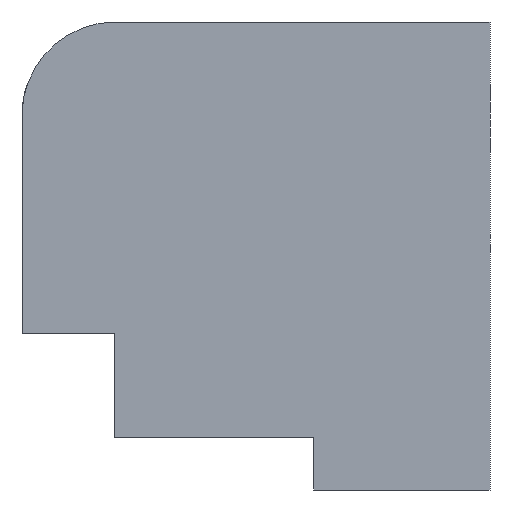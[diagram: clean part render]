
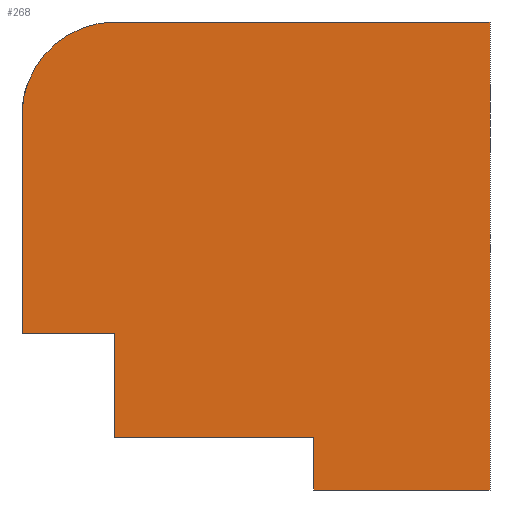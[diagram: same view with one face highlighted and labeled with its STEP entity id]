
A CAD part, front view. The second image highlights one B-rep face of the part: STEP entity #268.
In plain terms, the highlighted planar face has unit normal (0, -1, 0).
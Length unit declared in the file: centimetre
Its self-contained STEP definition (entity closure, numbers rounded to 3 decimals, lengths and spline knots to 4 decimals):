
#15 = EDGE_CURVE ( 'NONE', #642, #235, #370, .T. ) ;
#17 = EDGE_LOOP ( 'NONE', ( #24, #442, #120, #632, #596, #78, #430, #422, #227 ) ) ;
#24 = ORIENTED_EDGE ( 'NONE', *, *, #392, .T. ) ;
#35 = EDGE_CURVE ( 'NONE', #337, #346, #108, .T. ) ;
#53 = VECTOR ( 'NONE', #95, 100. ) ;
#62 = VERTEX_POINT ( 'NONE', #192 ) ;
#78 = ORIENTED_EDGE ( 'NONE', *, *, #385, .T. ) ;
#91 = FACE_OUTER_BOUND ( 'NONE', #17, .T. ) ;
#93 = LINE ( 'NONE', #396, #585 ) ;
#95 = DIRECTION ( 'NONE',  ( -1., 0., 0. ) ) ;
#100 = CARTESIAN_POINT ( 'NONE',  ( 1000., 0., 1000. ) ) ;
#108 = LINE ( 'NONE', #376, #215 ) ;
#111 = DIRECTION ( 'NONE',  ( 0., 0., 1. ) ) ;
#113 = DIRECTION ( 'NONE',  ( 1., 0., 0. ) ) ;
#114 = EDGE_CURVE ( 'NONE', #633, #178, #93, .T. ) ;
#118 = CARTESIAN_POINT ( 'NONE',  ( 623.1372, 0., 0. ) ) ;
#120 = ORIENTED_EDGE ( 'NONE', *, *, #15, .F. ) ;
#125 = VECTOR ( 'NONE', #154, 100. ) ;
#145 = DIRECTION ( 'NONE',  ( 1., 0., 0. ) ) ;
#150 = LINE ( 'NONE', #367, #612 ) ;
#154 = DIRECTION ( 'NONE',  ( 0., 0., -1. ) ) ;
#168 = DIRECTION ( 'NONE',  ( 0., 0., 1. ) ) ;
#178 = VERTEX_POINT ( 'NONE', #211 ) ;
#183 = CARTESIAN_POINT ( 'NONE',  ( 0., 0., 1000. ) ) ;
#189 = CARTESIAN_POINT ( 'NONE',  ( 192.6679, 0., 111.3005 ) ) ;
#192 = CARTESIAN_POINT ( 'NONE',  ( 0., 0., 334.2909 ) ) ;
#211 = CARTESIAN_POINT ( 'NONE',  ( 623.1372, 0., 111.3005 ) ) ;
#215 = VECTOR ( 'NONE', #113, 100. ) ;
#227 = ORIENTED_EDGE ( 'NONE', *, *, #574, .T. ) ;
#235 = VERTEX_POINT ( 'NONE', #393 ) ;
#250 = LINE ( 'NONE', #357, #125 ) ;
#260 = EDGE_CURVE ( 'NONE', #235, #62, #288, .T. ) ;
#261 = VECTOR ( 'NONE', #145, 100. ) ;
#268 = ADVANCED_FACE ( 'NONE', ( #91 ), #311, .F. ) ;
#288 = LINE ( 'NONE', #441, #467 ) ;
#302 = CARTESIAN_POINT ( 'NONE',  ( 0., 0., 0. ) ) ;
#306 = CARTESIAN_POINT ( 'NONE',  ( 199.3054, 0., 1000. ) ) ;
#310 = EDGE_CURVE ( 'NONE', #178, #642, #592, .T. ) ;
#311 = PLANE ( 'NONE',  #545 ) ;
#328 = CARTESIAN_POINT ( 'NONE',  ( 1000., 0., 0. ) ) ;
#331 = EDGE_CURVE ( 'NONE', #346, #587, #250, .T. ) ;
#334 = CARTESIAN_POINT ( 'NONE',  ( 199.3054, 0., 800.6946 ) ) ;
#337 = VERTEX_POINT ( 'NONE', #306 ) ;
#346 = VERTEX_POINT ( 'NONE', #100 ) ;
#354 = LINE ( 'NONE', #302, #261 ) ;
#357 = CARTESIAN_POINT ( 'NONE',  ( 1000., 0., 1000. ) ) ;
#367 = CARTESIAN_POINT ( 'NONE',  ( 0., 0., 1000. ) ) ;
#370 = LINE ( 'NONE', #417, #579 ) ;
#376 = CARTESIAN_POINT ( 'NONE',  ( 0., 0., 1000. ) ) ;
#379 = CARTESIAN_POINT ( 'NONE',  ( 197.364, 0., 111.3005 ) ) ;
#385 = EDGE_CURVE ( 'NONE', #633, #587, #354, .T. ) ;
#392 = EDGE_CURVE ( 'NONE', #588, #62, #150, .T. ) ;
#393 = CARTESIAN_POINT ( 'NONE',  ( 197.364, 0., 334.2909 ) ) ;
#396 = CARTESIAN_POINT ( 'NONE',  ( 623.1372, 0., 0. ) ) ;
#417 = CARTESIAN_POINT ( 'NONE',  ( 197.364, 0., 334.2909 ) ) ;
#422 = ORIENTED_EDGE ( 'NONE', *, *, #35, .F. ) ;
#430 = ORIENTED_EDGE ( 'NONE', *, *, #331, .F. ) ;
#441 = CARTESIAN_POINT ( 'NONE',  ( 197.364, 0., 334.2909 ) ) ;
#442 = ORIENTED_EDGE ( 'NONE', *, *, #260, .F. ) ;
#447 = DIRECTION ( 'NONE',  ( -1., 0., 0. ) ) ;
#455 = DIRECTION ( 'NONE',  ( 0., 0., -1. ) ) ;
#456 = DIRECTION ( 'NONE',  ( 0., 0., 1. ) ) ;
#467 = VECTOR ( 'NONE', #447, 100. ) ;
#508 = CIRCLE ( 'NONE', #652, 199.3054 ) ;
#545 = AXIS2_PLACEMENT_3D ( 'NONE', #183, #546, #556 ) ;
#546 = DIRECTION ( 'NONE',  ( 0., 1., 0. ) ) ;
#556 = DIRECTION ( 'NONE',  ( 0., 0., 1. ) ) ;
#574 = EDGE_CURVE ( 'NONE', #337, #588, #508, .T. ) ;
#579 = VECTOR ( 'NONE', #111, 100. ) ;
#585 = VECTOR ( 'NONE', #456, 100. ) ;
#587 = VERTEX_POINT ( 'NONE', #328 ) ;
#588 = VERTEX_POINT ( 'NONE', #600 ) ;
#592 = LINE ( 'NONE', #189, #53 ) ;
#596 = ORIENTED_EDGE ( 'NONE', *, *, #114, .F. ) ;
#600 = CARTESIAN_POINT ( 'NONE',  ( 0., 0., 800.6946 ) ) ;
#612 = VECTOR ( 'NONE', #455, 100. ) ;
#632 = ORIENTED_EDGE ( 'NONE', *, *, #310, .F. ) ;
#633 = VERTEX_POINT ( 'NONE', #118 ) ;
#640 = DIRECTION ( 'NONE',  ( 0., -1., 0. ) ) ;
#642 = VERTEX_POINT ( 'NONE', #379 ) ;
#652 = AXIS2_PLACEMENT_3D ( 'NONE', #334, #640, #168 ) ;
